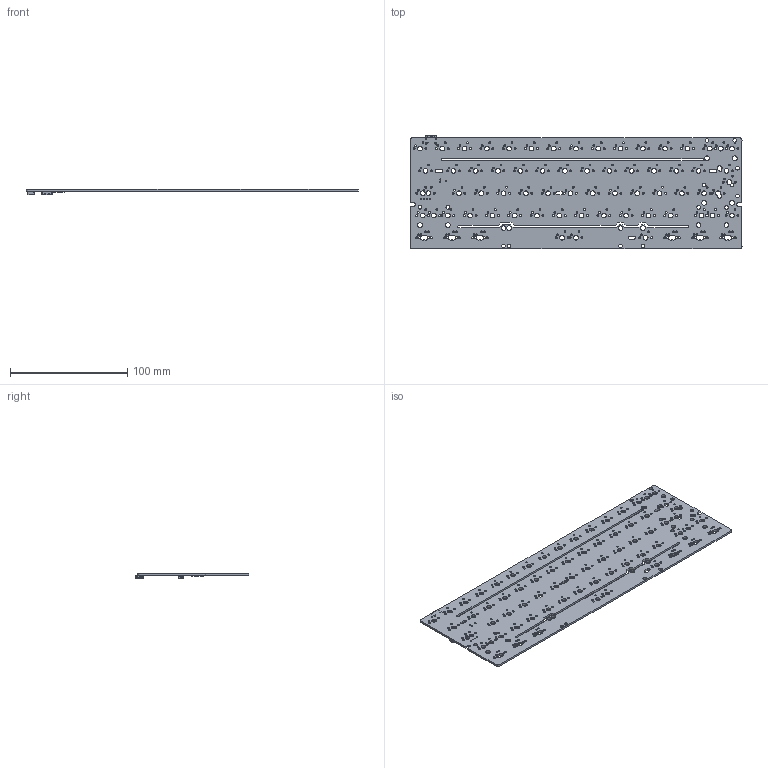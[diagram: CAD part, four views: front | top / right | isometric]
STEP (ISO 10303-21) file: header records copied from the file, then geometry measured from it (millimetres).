
FILE_DESCRIPTION(('Open CASCADE Model'),'2;1');
FILE_NAME('Open CASCADE Shape Model','2020-08-22T04:54:46',('Author'),( 'Open CASCADE'),'Open CASCADE STEP processor 6.8','Open CASCADE 6.8' ,'Unknown');
FILE_SCHEMA(('AUTOMOTIVE_DESIGN { 1 0 10303 214 1 1 1 1 }'));
Length unit declared in the file: millimetre
Products named in the file (102): PCB; Board_WT60DW; R6_WT60DW; 808805416; Extruded; J2_WT60DW; SM04B-SRSS-TB; U1_WT60DW; 808805960; C5_WT60DW; 808805144; C4_WT60DW; S1_WT60DW; TL3700AFxxxQG; D44_WT60DW; 808805824; D61_WT60DW; D1_WT60DW; D2_WT60DW; D3_WT60DW; D4_WT60DW; D5_WT60DW; D6_WT60DW; D7_WT60DW; D8_WT60DW; D9_WT60DW; D10_WT60DW; D11_WT60DW; D12_WT60DW; D13_WT60DW; D14_WT60DW; D15_WT60DW; D16_WT60DW; D17_WT60DW; D18_WT60DW; D19_WT60DW; D20_WT60DW; D21_WT60DW; D22_WT60DW; D23_WT60DW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
Assembly tree (174 placements, depth 4):
  PCB
    Board_WT60DW
    R6_WT60DW
      808805416
        Extruded
    J2_WT60DW
      SM04B-SRSS-TB
    U1_WT60DW
      808805960
        Extruded
    C5_WT60DW
      808805144
        Extruded
    C4_WT60DW
      808805144
        Extruded
    S1_WT60DW
      TL3700AFxxxQG
    D44_WT60DW
      808805824
        Extruded
    D61_WT60DW
      808805824
        Extruded
    D1_WT60DW
      808805824
        Extruded
    D2_WT60DW
      808805824
        Extruded
    D3_WT60DW
      808805824
        Extruded
    D4_WT60DW
      808805824
        Extruded
    D5_WT60DW
      808805824
        Extruded
    D6_WT60DW
      808805824
        Extruded
    D7_WT60DW
      808805824
        Extruded
    D8_WT60DW
      808805824
        Extruded
    D9_WT60DW
      808805824
        Extruded
    D10_WT60DW
      808805824
        Extruded
    D11_WT60DW
      808805824
        Extruded
    D12_WT60DW
      808805824
        Extruded
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Bounding box: 283.75 x 96.75 x 4.94 mm (x, y, z)
Volume: 41053.5 mm3; surface area: 57263.8 mm2
Topology: 84 solids, 85 shells, 3197 faces, 8993 edges, 5950 vertices
Faces by surface type: plane 2541, cylinder 623, cone 24, bspline 6, sphere 3
Full cylindrical faces by diameter (mm): 0.6 x2, 0.65 x2, 0.991 x3, 1 x4, 1.5 x151, 1.7 x131, 3.15 x12, 4 x49, 4.05 x12
Entity records: 97313 total; most frequent: CARTESIAN_POINT 18722, ORIENTED_EDGE 16234, DIRECTION 14475, EDGE_CURVE 8117, LINE 6585, VECTOR 6585, VERTEX_POINT 5366, AXIS2_PLACEMENT_3D 3945
